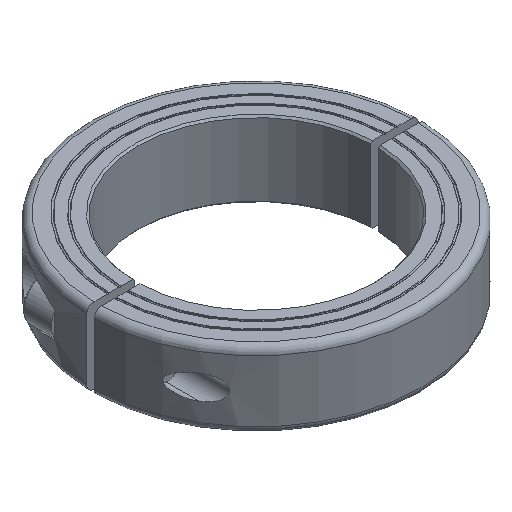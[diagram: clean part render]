
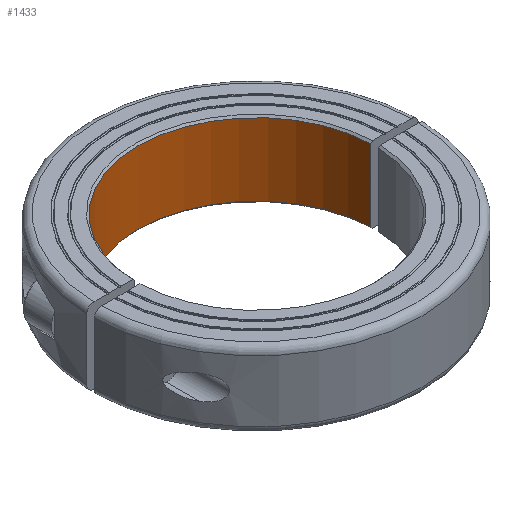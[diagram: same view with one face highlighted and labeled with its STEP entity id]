
A CAD part, isometric view. The second image highlights one B-rep face of the part: STEP entity #1433.
In plain terms, the highlighted cylindrical face has radius 50 mm (diameter 100 mm), a partial arc.
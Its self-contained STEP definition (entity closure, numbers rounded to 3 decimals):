
#251=CARTESIAN_POINT('',(-49.975,1.588,
-0.75));
#256=DIRECTION('',(0.,0.,-1.));
#257=VECTOR('',#256,30.5);
#258=CARTESIAN_POINT('',(-49.975,1.588,
-0.75));
#259=LINE('',#258,#257);
#263=CARTESIAN_POINT('',(-49.975,1.588,-31.25));
#303=CARTESIAN_POINT('',(49.975,1.587,-31.25));
#308=DIRECTION('',(0.,0.,1.));
#309=VECTOR('',#308,30.5);
#310=CARTESIAN_POINT('',(49.975,1.587,-31.25));
#311=LINE('',#310,#309);
#315=CARTESIAN_POINT('',(49.975,1.587,-0.75));
#391=CARTESIAN_POINT('',(0.,0.,-31.25));
#392=DIRECTION('',(0.,0.,1.));
#393=DIRECTION('',(0.999,0.032,0.));
#394=AXIS2_PLACEMENT_3D('',#391,#392,#393);
#401=CARTESIAN_POINT('',(0.,0.,-0.75));
#402=DIRECTION('',(0.,0.,-1.));
#403=DIRECTION('',(-0.999,0.032,0.));
#404=AXIS2_PLACEMENT_3D('',#401,#402,#403);
#891=VERTEX_POINT('',#251);
#892=VERTEX_POINT('',#263);
#894=VERTEX_POINT('',#303);
#896=VERTEX_POINT('',#315);
#1421=CARTESIAN_POINT('',(0.,0.,-0.75));
#1422=DIRECTION('',(0.,0.,-1.));
#1423=DIRECTION('',(-1.,0.,0.));
#1424=AXIS2_PLACEMENT_3D('',#1421,#1422,#1423);
#1425=CYLINDRICAL_SURFACE('',#1424,50.);
#1426=ORIENTED_EDGE('',*,*,#1309,.F.);
#1428=ORIENTED_EDGE('',*,*,#1427,.T.);
#1429=ORIENTED_EDGE('',*,*,#1360,.F.);
#1430=ORIENTED_EDGE('',*,*,#1407,.T.);
#1431=EDGE_LOOP('',(#1426,#1428,#1429,#1430));
#1432=FACE_OUTER_BOUND('',#1431,.F.);
#395=CIRCLE('',#394,50.);
#405=CIRCLE('',#404,50.);
#1309=EDGE_CURVE('',#891,#892,#259,.T.);
#1360=EDGE_CURVE('',#894,#896,#311,.T.);
#1407=EDGE_CURVE('',#894,#892,#395,.T.);
#1427=EDGE_CURVE('',#891,#896,#405,.T.);
#1433=ADVANCED_FACE('',(#1432),#1425,.F.);
